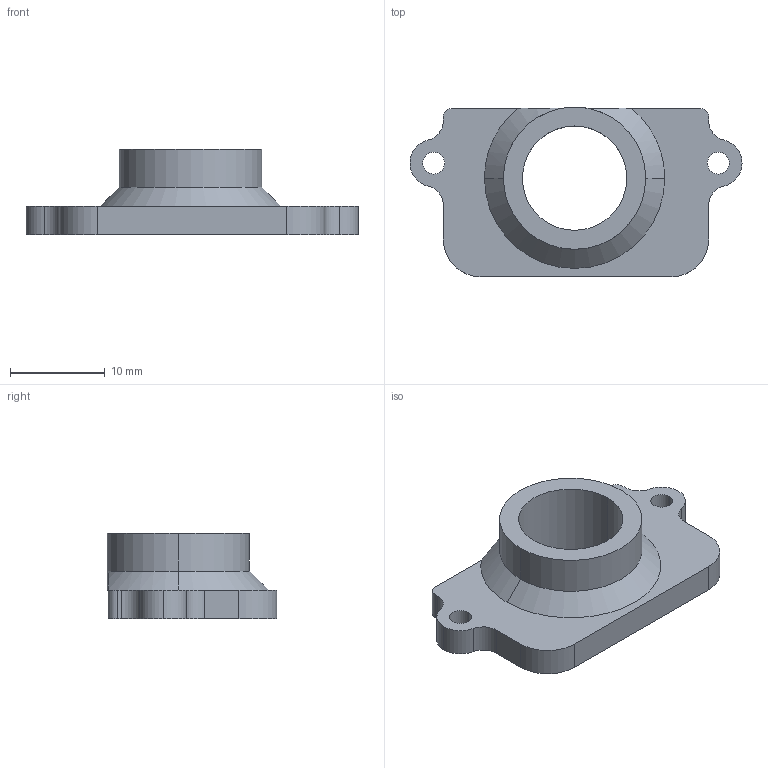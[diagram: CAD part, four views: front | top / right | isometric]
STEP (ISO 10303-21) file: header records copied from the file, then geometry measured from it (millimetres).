
FILE_DESCRIPTION (( 'STEP AP203' ), '1' );
FILE_NAME ('平行夹爪相机支架-盖子.STEP', '2025-08-21T06:42:15', ( '' ), ( '' ), 'SwSTEP 2.0', 'SolidWorks 2023', '' );
FILE_SCHEMA (( 'CONFIG_CONTROL_DESIGN' ));
Length unit declared in the file: millimetre
Products named in the file (1): 平行夹爪相机支架-盖子
Bounding box: 35 x 17.9 x 9 mm (x, y, z)
Volume: 1837.9 mm3; surface area: 1717.9 mm2
Topology: 1 solids, 1 shells, 32 faces, 88 edges, 58 vertices
Faces by surface type: cylinder 19, plane 10, cone 3
Entity records: 1136 total; most frequent: DIRECTION 195, CARTESIAN_POINT 191, ORIENTED_EDGE 176, EDGE_CURVE 88, AXIS2_PLACEMENT_3D 76, VERTEX_POINT 58, CIRCLE 43, VECTOR 43
